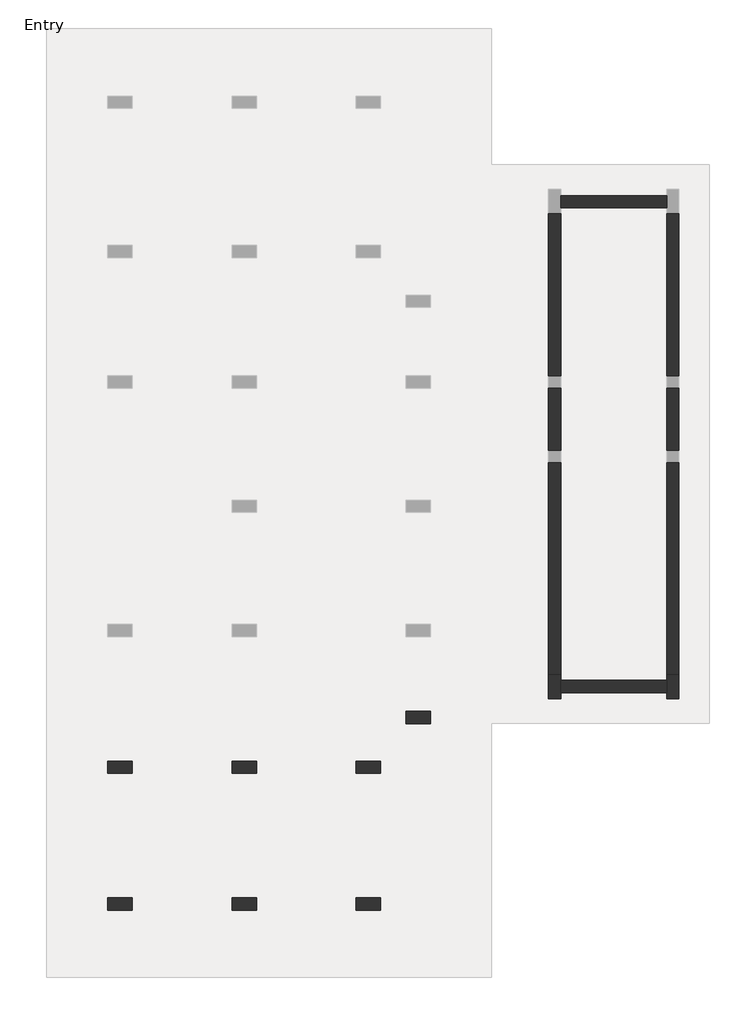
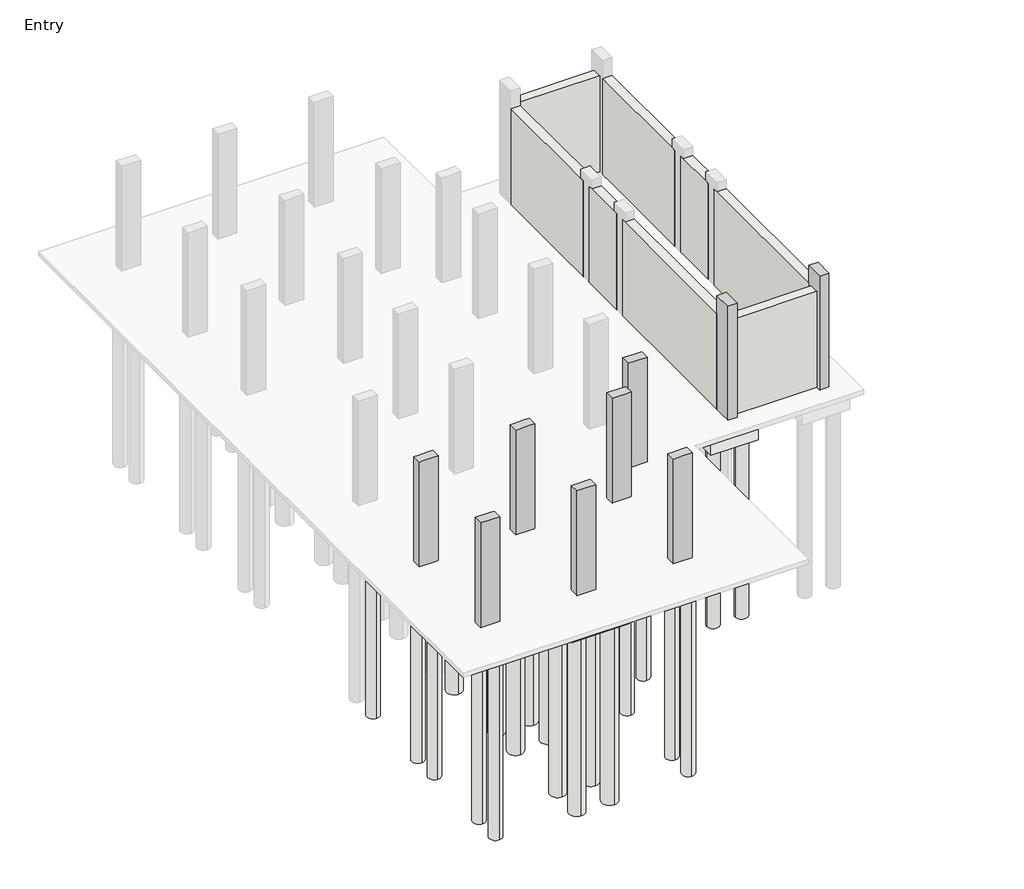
# One storey, part 1 of 3: 32 slabs, 9 columns, 8 walls, 1 footing.
"""IFC4 building model written with IfcOpenShell, lengths in millimetres."""

from ifc_helpers import new_model, si_unit, point, frame, frame_2d, origin, origin_with_axes, place, context, project, spatial, polyline, circle_curve, trimmed, segment, composite_curve, outline, extrude, faceted_brep, element, save

model = new_model("IFC4")

# Units and contexts
model_context = context("Model", 3, world=origin())
ifc_project = project(units=[si_unit("LENGTHUNIT", "METRE", prefix="MILLI")], contexts=[model_context])

# Site, building, storey
site = spatial("IfcSite", under=ifc_project)
building = spatial("IfcBuilding", under=site)
storey = spatial("IfcBuildingStorey", under=building, Name="Entry", Elevation=0.0)

# Columns
placement = place(None, origin())
element("IfcColumn", 1, ObjectType="M_Concrete-Rectangular-Column : 300 x 600mm", at=placement, inside=storey, context=model_context, shape_type="Brep", body=[
    faceted_brep([(-6997.5526929, -1780.40431, 0.0), (-6397.5526929, -1780.40431, 0.0), (-6397.5526929, -2080.40431, 0.0), (-6997.5526929, -2080.40431, 0.0), (-6997.5526929, -1780.40431, 3505.2), (-6847.5526929, -1780.40431, 3505.2), (-6547.5526929, -1780.40431, 3505.2), (-6397.5526929, -1780.40431, 3505.2), (-6997.5526929, -1780.40431, 2910.0), (-6397.5526929, -2080.40431, 3505.2), (-6697.5526929, -2080.40431, 3505.2), (-6997.5526929, -2080.40431, 3505.2), (-6997.5526929, -2080.40431, 2910.0)], [[[0, 1, 2, 3]], [[4, 5, 6, 7, 1, 0, 8]], [[7, 9, 2, 1]], [[9, 10, 11, 12, 3, 2]], [[11, 4, 8, 0, 3, 12]], [[4, 11, 10, 9, 7, 6, 5]]]),
])
element("IfcColumn", 2, ObjectType="M_Concrete-Rectangular-Column : 300 x 600mm", at=placement, inside=storey, context=model_context, shape_type="Brep", body=[
    faceted_brep([(-14312.7526929, -2999.60431, 0.0), (-13712.7526929, -2999.60431, 0.0), (-13712.7526929, -3299.60431, 0.0), (-14312.7526929, -3299.60431, 0.0), (-14312.7526929, -2999.60431, 3505.2), (-14162.7526929, -2999.60431, 3505.2), (-13862.7526929, -2999.60431, 3505.2), (-13712.7526929, -2999.60431, 3505.2), (-13712.7526929, -2999.60431, 2910.0), (-13712.7526929, -3299.60431, 3505.2), (-13712.7526929, -3299.60431, 2910.0), (-13862.7526929, -3299.60431, 3505.2), (-14162.7526929, -3299.60431, 3505.2), (-14312.7526929, -3299.60431, 3505.2)], [[[0, 1, 2, 3]], [[4, 5, 6, 7, 8, 1, 0]], [[7, 9, 10, 2, 1, 8]], [[9, 11, 12, 13, 3, 2, 10]], [[13, 4, 0, 3]], [[4, 13, 12, 11, 9, 7, 6, 5]]]),
])
element("IfcColumn", 3, ObjectType="M_Concrete-Rectangular-Column : 300 x 600mm", at=placement, inside=storey, context=model_context, shape_type="Brep", body=[
    faceted_brep([(-11264.7526929, -2999.60431, 0.0), (-10664.7526929, -2999.60431, 0.0), (-10664.7526929, -3299.60431, 0.0), (-11264.7526929, -3299.60431, 0.0), (-11264.7526929, -2999.60431, 3505.2), (-11114.7526929, -2999.60431, 3505.2), (-10814.7526929, -2999.60431, 3505.2), (-10664.7526929, -2999.60431, 3505.2), (-10664.7526929, -2999.60431, 2910.0), (-11264.7526929, -2999.60431, 2910.0), (-10664.7526929, -3299.60431, 3505.2), (-10664.7526929, -3299.60431, 2910.0), (-10814.7526929, -3299.60431, 3505.2), (-11114.7526929, -3299.60431, 3505.2), (-11264.7526929, -3299.60431, 3505.2), (-11264.7526929, -3299.60431, 2910.0)], [[[0, 1, 2, 3]], [[4, 5, 6, 7, 8, 1, 0, 9]], [[7, 10, 11, 2, 1, 8]], [[10, 12, 13, 14, 15, 3, 2, 11]], [[14, 4, 9, 0, 3, 15]], [[4, 14, 13, 12, 10, 7, 6, 5]]]),
])
element("IfcColumn", 4, ObjectType="M_Concrete-Rectangular-Column : 300 x 600mm", at=placement, inside=storey, context=model_context, shape_type="Brep", body=[
    faceted_brep([(-8216.7526929, -2999.60431, 0.0), (-7616.7526929, -2999.60431, 0.0), (-7616.7526929, -3299.60431, 0.0), (-8216.7526929, -3299.60431, 0.0), (-8216.7526929, -2999.60431, 3505.2), (-8066.7526929, -2999.60431, 3505.2), (-7766.7526929, -2999.60431, 3505.2), (-7616.7526929, -2999.60431, 3505.2), (-8216.7526929, -2999.60431, 2910.0), (-7616.7526929, -3299.60431, 3505.2), (-7766.7526929, -3299.60431, 3505.2), (-8066.7526929, -3299.60431, 3505.2), (-8216.7526929, -3299.60431, 3505.2), (-8216.7526929, -3299.60431, 2910.0)], [[[0, 1, 2, 3]], [[4, 5, 6, 7, 1, 0, 8]], [[7, 9, 2, 1]], [[9, 10, 11, 12, 13, 3, 2]], [[12, 4, 8, 0, 3, 13]], [[4, 12, 11, 10, 9, 7, 6, 5]]]),
])
element("IfcColumn", 5, ObjectType="M_Concrete-Rectangular-Column : 300 x 600mm", at=placement, inside=storey, context=model_context, shape_type="Brep", body=[
    faceted_brep([(-14312.7526929, -6352.40431, 0.0), (-13712.7526929, -6352.40431, 0.0), (-13712.7526929, -6652.40431, 0.0), (-14312.7526929, -6652.40431, 0.0), (-14312.7526929, -6352.40431, 3505.2), (-14162.7526929, -6352.40431, 3505.2), (-13862.7526929, -6352.40431, 3505.2), (-13712.7526929, -6352.40431, 3505.2), (-13712.7526929, -6352.40431, 2910.0), (-13712.7526929, -6652.40431, 3505.2), (-13712.7526929, -6652.40431, 2910.0), (-14012.7526929, -6652.40431, 3505.2), (-14312.7526929, -6652.40431, 3505.2)], [[[0, 1, 2, 3]], [[4, 5, 6, 7, 8, 1, 0]], [[7, 9, 10, 2, 1, 8]], [[9, 11, 12, 3, 2, 10]], [[12, 4, 0, 3]], [[4, 12, 11, 9, 7, 6, 5]]]),
])
element("IfcColumn", 6, ObjectType="M_Concrete-Rectangular-Column : 300 x 600mm", at=placement, inside=storey, context=model_context, shape_type="Brep", body=[
    faceted_brep([(-11264.7526929, -6352.40431, 0.0), (-10664.7526929, -6352.40431, 0.0), (-10664.7526929, -6652.40431, 0.0), (-11264.7526929, -6652.40431, 0.0), (-11264.7526929, -6352.40431, 3505.2), (-10664.7526929, -6352.40431, 3505.2), (-10664.7526929, -6352.40431, 2910.0), (-11264.7526929, -6352.40431, 2910.0), (-10664.7526929, -6652.40431, 3505.2), (-10664.7526929, -6652.40431, 2910.0), (-11264.7526929, -6652.40431, 3505.2), (-11264.7526929, -6652.40431, 2910.0)], [[[0, 1, 2, 3]], [[4, 5, 6, 1, 0, 7]], [[5, 8, 9, 2, 1, 6]], [[8, 10, 11, 3, 2, 9]], [[10, 4, 7, 0, 3, 11]], [[4, 10, 8, 5]]]),
])
element("IfcColumn", 7, ObjectType="M_Concrete-Rectangular-Column : 300 x 600mm", at=placement, inside=storey, context=model_context, shape_type="Brep", body=[
    faceted_brep([(-8216.7526929, -6352.40431, 0.0), (-7616.7526929, -6352.40431, 0.0), (-7616.7526929, -6652.40431, 0.0), (-8216.7526929, -6652.40431, 0.0), (-8216.7526929, -6352.40431, 3505.2), (-8066.7526929, -6352.40431, 3505.2), (-7766.7526929, -6352.40431, 3505.2), (-7616.7526929, -6352.40431, 3505.2), (-8216.7526929, -6352.40431, 2910.0), (-7616.7526929, -6652.40431, 3505.2), (-7916.7526929, -6652.40431, 3505.2), (-8216.7526929, -6652.40431, 3505.2), (-8216.7526929, -6652.40431, 2910.0)], [[[0, 1, 2, 3]], [[4, 5, 6, 7, 1, 0, 8]], [[7, 9, 2, 1]], [[9, 10, 11, 12, 3, 2]], [[11, 4, 8, 0, 3, 12]], [[4, 11, 10, 9, 7, 6, 5]]]),
])
element("IfcColumn", 8, ObjectType="M_Concrete-Rectangular-Column : 300 x 600mm", at=placement, inside=storey, context=model_context, shape_type="Brep", body=[
    faceted_brep([(-3494.7526929, -1468.40431, 0.0), (-3494.7526929, -868.40431, 0.0), (-3194.7526929, -868.40431, 0.0), (-3194.7526929, -1018.40431, 0.0), (-3194.7526929, -1318.40431, 0.0), (-3194.7526929, -1468.40431, 0.0), (-3494.7526929, -1468.40431, 3810.0), (-3494.7526929, -868.40431, 3810.0), (-3494.7526929, -868.40431, 3210.0), (-3194.7526929, -868.40431, 3810.0), (-3194.7526929, -868.40431, 3210.0), (-3194.7526929, -1468.40431, 3810.0)], [[[0, 1, 2, 3, 4, 5]], [[6, 7, 8, 1, 0]], [[7, 9, 10, 2, 1, 8]], [[9, 11, 5, 4, 3, 2, 10]], [[11, 6, 0, 5]], [[6, 11, 9, 7]]]),
])
element("IfcColumn", 9, ObjectType="M_Concrete-Rectangular-Column : 300 x 600mm", at=placement, inside=storey, context=model_context, shape_type="Brep", body=[
    faceted_brep([(-599.1526929, -1468.40431, 0.0), (-599.1526929, -1318.40431, 0.0), (-599.1526929, -1018.40431, 0.0), (-599.1526929, -868.40431, 0.0), (-299.1526929, -868.40431, 0.0), (-299.1526929, -1468.40431, 0.0), (-599.1526929, -1468.40431, 3810.0), (-599.1526929, -868.40431, 3810.0), (-599.1526929, -868.40431, 3210.0), (-299.1526929, -868.40431, 3810.0), (-299.1526929, -868.40431, 3210.0), (-299.1526929, -1468.40431, 3810.0)], [[[0, 1, 2, 3, 4, 5]], [[6, 7, 8, 3, 2, 1, 0]], [[7, 9, 10, 4, 3, 8]], [[9, 11, 5, 4, 10]], [[11, 6, 0, 5]], [[6, 11, 9, 7]]]),
])

# Footing
element("IfcFooting", 10, ObjectType="Bearing Footing - 900 x 300", at=placement, inside=storey, context=model_context, shape_type="Brep", body=[
    faceted_brep([(-599.1526929, -1618.40431, -300.0), (-599.1526929, -1568.40431, -300.0), (-599.1526929, -1568.40431, -150.0), (-599.1526929, -1618.40431, -150.0), (-599.1526929, -768.40431, -300.0), (-599.1526929, -718.40431, -300.0), (-599.1526929, -718.40431, -150.0), (-599.1526929, -768.40431, -150.0), (-3194.7526929, -1568.40431, -300.0), (-3194.7526929, -1618.40431, -300.0), (-3194.7526929, -1618.40431, -150.0), (-3194.7526929, -1568.40431, -150.0), (-2594.7526929, -1568.40431, -300.0), (-2594.7526929, -768.40431, -300.0), (-2894.7526929, -768.40431, -300.0), (-2894.7526929, -718.40431, -300.0), (-899.1526929, -718.40431, -300.0), (-1199.1526929, -768.40431, -300.0), (-1199.1526929, -1568.40431, -300.0), (-2894.7526929, -718.40431, -150.0), (-899.1526929, -718.40431, -150.0), (-2594.7526929, -1568.40431, -150.0), (-2594.7526929, -768.40431, -150.0), (-2894.7526929, -768.40431, -150.0), (-1199.1526929, -1568.40431, -150.0), (-1199.1526929, -768.40431, -150.0)], [[[0, 1, 2, 3]], [[4, 5, 6, 7]], [[8, 9, 10, 11]], [[9, 0, 3, 10]], [[0, 9, 8, 12, 13, 14, 15, 16, 5, 4, 17, 18, 1]], [[5, 16, 15, 19, 20, 6]], [[12, 8, 11, 21]], [[13, 12, 21, 22]], [[14, 13, 22, 23]], [[1, 18, 24, 2]], [[17, 4, 7, 25]], [[18, 17, 25, 24]], [[15, 14, 23, 19]], [[3, 2, 24, 25, 7, 6, 20, 19, 23, 22, 21, 11, 10]]]),
])

# Slabs
element("IfcSlab", 11, ObjectType="M_Pile Cap-2 Pile : 800 x 1500 x 900mm", at=placement, inside=storey, context=model_context, shape_type="SweptSolid", body=[
    extrude(outline(polyline([(-14412.7526929, -2399.60431), (-13612.7526929, -2399.60431), (-13612.7526929, -3899.60431), (-14412.7526929, -3899.60431), (-14412.7526929, -2399.60431)])), frame((0.0, 0.0, -900.0), z_axis=(0.0, 0.0, 1.0), x_axis=(1.0, 0.0, 0.0)), (0.0, 0.0, 1.0), 750.0),
])
element("IfcSlab", 12, ObjectType="M_Pile Cap-2 Pile : 800 x 1500 x 900mm", at=placement, inside=storey, context=model_context, shape_type="SweptSolid", body=[
    extrude(outline(polyline([(-14412.7526929, -5752.40431), (-13612.7526929, -5752.40431), (-13612.7526929, -7252.40431), (-14412.7526929, -7252.40431), (-14412.7526929, -5752.40431)])), frame((0.0, 0.0, -900.0), z_axis=(0.0, 0.0, 1.0), x_axis=(1.0, 0.0, 0.0)), (0.0, 0.0, 1.0), 750.0),
])
element("IfcSlab", 13, ObjectType="M_Pile Cap-2 Pile : 800 x 1500 x 900mm", at=placement, inside=storey, context=model_context, shape_type="SweptSolid", body=[
    extrude(outline(polyline([(-8316.7526929, -2399.60431), (-7516.7526929, -2399.60431), (-7516.7526929, -3899.60431), (-8316.7526929, -3899.60431), (-8316.7526929, -2399.60431)])), frame((0.0, 0.0, -900.0), z_axis=(0.0, 0.0, 1.0), x_axis=(1.0, 0.0, 0.0)), (0.0, 0.0, 1.0), 750.0),
])
element("IfcSlab", 14, ObjectType="M_Pile Cap-2 Pile : 800 x 1500 x 900mm", at=placement, inside=storey, context=model_context, shape_type="SweptSolid", body=[
    extrude(outline(polyline([(-8316.7526929, -5752.40431), (-7516.7526929, -5752.40431), (-7516.7526929, -7252.40431), (-8316.7526929, -7252.40431), (-8316.7526929, -5752.40431)])), frame((0.0, 0.0, -900.0), z_axis=(0.0, 0.0, 1.0), x_axis=(1.0, 0.0, 0.0)), (0.0, 0.0, 1.0), 750.0),
])
element("IfcSlab", 15, ObjectType="M_Pile Cap-2 Pile : 800 x 1500 x 900mm", at=placement, inside=storey, context=model_context, shape_type="Brep", body=[
    faceted_brep([(-4094.7526929, -1568.40431, -900.0), (-4094.7526929, -768.40431, -900.0), (-2594.7526929, -768.40431, -900.0), (-2594.7526929, -1568.40431, -900.0), (-2594.7526929, -1568.40431, -300.0), (-2594.7526929, -1568.40431, -150.0), (-3194.7526929, -1568.40431, -150.0), (-4094.7526929, -1568.40431, -150.0), (-2594.7526929, -768.40431, -300.0), (-2594.7526929, -768.40431, -150.0), (-4094.7526929, -768.40431, -150.0), (-3794.7526929, -768.40431, -150.0), (-2894.7526929, -768.40431, -150.0)], [[[0, 1, 2, 3]], [[0, 3, 4, 5, 6, 7]], [[3, 2, 8, 9, 5, 4]], [[2, 1, 10, 11, 12, 9, 8]], [[1, 0, 7, 10]], [[7, 6, 5, 9, 12, 11, 10]]]),
])
element("IfcSlab", 16, ObjectType="M_Pile Cap-2 Pile : 800 x 1500 x 900mm", at=placement, inside=storey, context=model_context, shape_type="SweptSolid", body=[
    extrude(outline(polyline([(-7097.5526929, -1180.40431), (-6297.5526929, -1180.40431), (-6297.5526929, -2680.40431), (-7097.5526929, -2680.40431), (-7097.5526929, -1180.40431)])), frame((0.0, 0.0, -900.0), z_axis=(0.0, 0.0, 1.0), x_axis=(1.0, 0.0, 0.0)), (0.0, 0.0, 1.0), 750.0),
])
element("IfcSlab", 17, ObjectType="M_Pile Cap-4 Pile : 1800 x 1800 x 900mm", at=placement, inside=storey, context=model_context, shape_type="SweptSolid", body=[
    extrude(outline(polyline([(-11864.7526929, -2249.60431), (-10064.7526929, -2249.60431), (-10064.7526929, -4049.60431), (-11864.7526929, -4049.60431), (-11864.7526929, -2249.60431)])), frame((0.0, 0.0, -900.0), z_axis=(0.0, 0.0, 1.0), x_axis=(1.0, 0.0, 0.0)), (0.0, 0.0, 1.0), 750.0),
])
element("IfcSlab", 18, ObjectType="M_Pile Cap-4 Pile : 1800 x 1800 x 900mm", at=placement, inside=storey, context=model_context, shape_type="SweptSolid", body=[
    extrude(outline(polyline([(-11864.7526929, -5602.40431), (-10064.7526929, -5602.40431), (-10064.7526929, -7402.40431), (-11864.7526929, -7402.40431), (-11864.7526929, -5602.40431)])), frame((0.0, 0.0, -900.0), z_axis=(0.0, 0.0, 1.0), x_axis=(1.0, 0.0, 0.0)), (0.0, 0.0, 1.0), 750.0),
])
element("IfcSlab", 19, ObjectType="M_Pile-Steel Pipe : 400mm Diameter", at=placement, inside=storey, context=model_context, shape_type="SweptSolid", body=[
    extrude(outline(composite_curve([segment(trimmed(circle_curve(frame_2d((-6697.5526929, -246.80431)), 200.0), [point((-6697.5526929, -446.80431))], [point((-6697.5526929, -46.80431))], False, "CARTESIAN"), True, "CONTINUOUS"), segment(trimmed(circle_curve(frame_2d((-6697.5526929, -246.80431)), 200.0), [point((-6697.5526929, -46.80431))], [point((-6697.5526929, -446.80431))], False, "CARTESIAN"), True, "CONTINUOUS")], self_intersect=False)), frame((0.0, 0.0, -6900.0), z_axis=(0.0, 0.0, 1.0), x_axis=(1.0, 0.0, 0.0)), (0.0, 0.0, 1.0), 6000.0),
])
element("IfcSlab", 20, ObjectType="M_Pile-Steel Pipe : 400mm Diameter", at=placement, inside=storey, context=model_context, shape_type="SweptSolid", body=[
    extrude(outline(composite_curve([segment(trimmed(circle_curve(frame_2d((-14012.7526929, -246.80431)), 200.0), [point((-14012.7526929, -446.80431))], [point((-14012.7526929, -46.80431))], False, "CARTESIAN"), True, "CONTINUOUS"), segment(trimmed(circle_curve(frame_2d((-14012.7526929, -246.80431)), 200.0), [point((-14012.7526929, -46.80431))], [point((-14012.7526929, -446.80431))], False, "CARTESIAN"), True, "CONTINUOUS")], self_intersect=False)), frame((0.0, 0.0, -6900.0), z_axis=(0.0, 0.0, 1.0), x_axis=(1.0, 0.0, 0.0)), (0.0, 0.0, 1.0), 6000.0),
])
element("IfcSlab", 21, ObjectType="M_Pile-Steel Pipe : 400mm Diameter", at=placement, inside=storey, context=model_context, shape_type="SweptSolid", body=[
    extrude(outline(composite_curve([segment(trimmed(circle_curve(frame_2d((-14012.7526929, -3599.60431)), 200.0), [point((-14012.7526929, -3799.60431))], [point((-14012.7526929, -3399.60431))], False, "CARTESIAN"), True, "CONTINUOUS"), segment(trimmed(circle_curve(frame_2d((-14012.7526929, -3599.60431)), 200.0), [point((-14012.7526929, -3399.60431))], [point((-14012.7526929, -3799.60431))], False, "CARTESIAN"), True, "CONTINUOUS")], self_intersect=False)), frame((0.0, 0.0, -6900.0), z_axis=(0.0, 0.0, 1.0), x_axis=(1.0, 0.0, 0.0)), (0.0, 0.0, 1.0), 6000.0),
])
element("IfcSlab", 22, ObjectType="M_Pile-Steel Pipe : 400mm Diameter", at=placement, inside=storey, context=model_context, shape_type="SweptSolid", body=[
    extrude(outline(composite_curve([segment(trimmed(circle_curve(frame_2d((-14012.7526929, -2699.60431)), 200.0), [point((-14012.7526929, -2899.60431))], [point((-14012.7526929, -2499.60431))], False, "CARTESIAN"), True, "CONTINUOUS"), segment(trimmed(circle_curve(frame_2d((-14012.7526929, -2699.60431)), 200.0), [point((-14012.7526929, -2499.60431))], [point((-14012.7526929, -2899.60431))], False, "CARTESIAN"), True, "CONTINUOUS")], self_intersect=False)), frame((0.0, 0.0, -6900.0), z_axis=(0.0, 0.0, 1.0), x_axis=(1.0, 0.0, 0.0)), (0.0, 0.0, 1.0), 6000.0),
])
element("IfcSlab", 23, ObjectType="M_Pile-Steel Pipe : 400mm Diameter", at=placement, inside=storey, context=model_context, shape_type="SweptSolid", body=[
    extrude(outline(composite_curve([segment(trimmed(circle_curve(frame_2d((-14012.7526929, -6952.40431)), 200.0), [point((-14012.7526929, -7152.40431))], [point((-14012.7526929, -6752.40431))], False, "CARTESIAN"), True, "CONTINUOUS"), segment(trimmed(circle_curve(frame_2d((-14012.7526929, -6952.40431)), 200.0), [point((-14012.7526929, -6752.40431))], [point((-14012.7526929, -7152.40431))], False, "CARTESIAN"), True, "CONTINUOUS")], self_intersect=False)), frame((0.0, 0.0, -6900.0), z_axis=(0.0, 0.0, 1.0), x_axis=(1.0, 0.0, 0.0)), (0.0, 0.0, 1.0), 6000.0),
])
element("IfcSlab", 24, ObjectType="M_Pile-Steel Pipe : 400mm Diameter", at=placement, inside=storey, context=model_context, shape_type="SweptSolid", body=[
    extrude(outline(composite_curve([segment(trimmed(circle_curve(frame_2d((-14012.7526929, -6052.40431)), 200.0), [point((-14012.7526929, -6252.40431))], [point((-14012.7526929, -5852.40431))], False, "CARTESIAN"), True, "CONTINUOUS"), segment(trimmed(circle_curve(frame_2d((-14012.7526929, -6052.40431)), 200.0), [point((-14012.7526929, -5852.40431))], [point((-14012.7526929, -6252.40431))], False, "CARTESIAN"), True, "CONTINUOUS")], self_intersect=False)), frame((0.0, 0.0, -6900.0), z_axis=(0.0, 0.0, 1.0), x_axis=(1.0, 0.0, 0.0)), (0.0, 0.0, 1.0), 6000.0),
])
element("IfcSlab", 25, ObjectType="M_Pile-Steel Pipe : 400mm Diameter", at=placement, inside=storey, context=model_context, shape_type="SweptSolid", body=[
    extrude(outline(composite_curve([segment(trimmed(circle_curve(frame_2d((-7916.7526929, -3599.60431)), 200.0), [point((-7916.7526929, -3799.60431))], [point((-7916.7526929, -3399.60431))], False, "CARTESIAN"), True, "CONTINUOUS"), segment(trimmed(circle_curve(frame_2d((-7916.7526929, -3599.60431)), 200.0), [point((-7916.7526929, -3399.60431))], [point((-7916.7526929, -3799.60431))], False, "CARTESIAN"), True, "CONTINUOUS")], self_intersect=False)), frame((0.0, 0.0, -6900.0), z_axis=(0.0, 0.0, 1.0), x_axis=(1.0, 0.0, 0.0)), (0.0, 0.0, 1.0), 6000.0),
])
element("IfcSlab", 26, ObjectType="M_Pile-Steel Pipe : 400mm Diameter", at=placement, inside=storey, context=model_context, shape_type="SweptSolid", body=[
    extrude(outline(composite_curve([segment(trimmed(circle_curve(frame_2d((-7916.7526929, -2699.60431)), 200.0), [point((-7916.7526929, -2899.60431))], [point((-7916.7526929, -2499.60431))], False, "CARTESIAN"), True, "CONTINUOUS"), segment(trimmed(circle_curve(frame_2d((-7916.7526929, -2699.60431)), 200.0), [point((-7916.7526929, -2499.60431))], [point((-7916.7526929, -2899.60431))], False, "CARTESIAN"), True, "CONTINUOUS")], self_intersect=False)), frame((0.0, 0.0, -6900.0), z_axis=(0.0, 0.0, 1.0), x_axis=(1.0, 0.0, 0.0)), (0.0, 0.0, 1.0), 6000.0),
])
element("IfcSlab", 27, ObjectType="M_Pile-Steel Pipe : 400mm Diameter", at=placement, inside=storey, context=model_context, shape_type="SweptSolid", body=[
    extrude(outline(composite_curve([segment(trimmed(circle_curve(frame_2d((-7916.7526929, -6952.40431)), 200.0), [point((-7916.7526929, -7152.40431))], [point((-7916.7526929, -6752.40431))], False, "CARTESIAN"), True, "CONTINUOUS"), segment(trimmed(circle_curve(frame_2d((-7916.7526929, -6952.40431)), 200.0), [point((-7916.7526929, -6752.40431))], [point((-7916.7526929, -7152.40431))], False, "CARTESIAN"), True, "CONTINUOUS")], self_intersect=False)), frame((0.0, 0.0, -6900.0), z_axis=(0.0, 0.0, 1.0), x_axis=(1.0, 0.0, 0.0)), (0.0, 0.0, 1.0), 6000.0),
])
element("IfcSlab", 28, ObjectType="M_Pile-Steel Pipe : 400mm Diameter", at=placement, inside=storey, context=model_context, shape_type="SweptSolid", body=[
    extrude(outline(composite_curve([segment(trimmed(circle_curve(frame_2d((-7916.7526929, -6052.40431)), 200.0), [point((-7916.7526929, -6252.40431))], [point((-7916.7526929, -5852.40431))], False, "CARTESIAN"), True, "CONTINUOUS"), segment(trimmed(circle_curve(frame_2d((-7916.7526929, -6052.40431)), 200.0), [point((-7916.7526929, -5852.40431))], [point((-7916.7526929, -6252.40431))], False, "CARTESIAN"), True, "CONTINUOUS")], self_intersect=False)), frame((0.0, 0.0, -6900.0), z_axis=(0.0, 0.0, 1.0), x_axis=(1.0, 0.0, 0.0)), (0.0, 0.0, 1.0), 6000.0),
])
element("IfcSlab", 29, ObjectType="M_Pile-Steel Pipe : 400mm Diameter", at=placement, inside=storey, context=model_context, shape_type="SweptSolid", body=[
    extrude(outline(composite_curve([segment(trimmed(circle_curve(frame_2d((-2894.7526929, -1168.40431)), 200.0), [point((-2694.7526929, -1168.40431))], [point((-3094.7526929, -1168.40431))], False, "CARTESIAN"), True, "CONTINUOUS"), segment(trimmed(circle_curve(frame_2d((-2894.7526929, -1168.40431)), 200.0), [point((-3094.7526929, -1168.40431))], [point((-2694.7526929, -1168.40431))], False, "CARTESIAN"), True, "CONTINUOUS")], self_intersect=False)), frame((0.0, 0.0, -6900.0), z_axis=(0.0, 0.0, 1.0), x_axis=(1.0, 0.0, 0.0)), (0.0, 0.0, 1.0), 6000.0),
])
element("IfcSlab", 30, ObjectType="M_Pile-Steel Pipe : 400mm Diameter", at=placement, inside=storey, context=model_context, shape_type="SweptSolid", body=[
    extrude(outline(composite_curve([segment(trimmed(circle_curve(frame_2d((-3794.7526929, -1168.40431)), 200.0), [point((-3594.7526929, -1168.40431))], [point((-3994.7526929, -1168.40431))], False, "CARTESIAN"), True, "CONTINUOUS"), segment(trimmed(circle_curve(frame_2d((-3794.7526929, -1168.40431)), 200.0), [point((-3994.7526929, -1168.40431))], [point((-3594.7526929, -1168.40431))], False, "CARTESIAN"), True, "CONTINUOUS")], self_intersect=False)), frame((0.0, 0.0, -6900.0), z_axis=(0.0, 0.0, 1.0), x_axis=(1.0, 0.0, 0.0)), (0.0, 0.0, 1.0), 6000.0),
])
element("IfcSlab", 31, ObjectType="M_Pile-Steel Pipe : 400mm Diameter", at=placement, inside=storey, context=model_context, shape_type="SweptSolid", body=[
    extrude(outline(composite_curve([segment(trimmed(circle_curve(frame_2d((-6697.5526929, -2380.40431)), 200.0), [point((-6697.5526929, -2580.40431))], [point((-6697.5526929, -2180.40431))], False, "CARTESIAN"), True, "CONTINUOUS"), segment(trimmed(circle_curve(frame_2d((-6697.5526929, -2380.40431)), 200.0), [point((-6697.5526929, -2180.40431))], [point((-6697.5526929, -2580.40431))], False, "CARTESIAN"), True, "CONTINUOUS")], self_intersect=False)), frame((0.0, 0.0, -6900.0), z_axis=(0.0, 0.0, 1.0), x_axis=(1.0, 0.0, 0.0)), (0.0, 0.0, 1.0), 6000.0),
])
element("IfcSlab", 32, ObjectType="M_Pile-Steel Pipe : 400mm Diameter", at=placement, inside=storey, context=model_context, shape_type="SweptSolid", body=[
    extrude(outline(composite_curve([segment(trimmed(circle_curve(frame_2d((-6697.5526929, -1480.40431)), 200.0), [point((-6697.5526929, -1680.40431))], [point((-6697.5526929, -1280.40431))], False, "CARTESIAN"), True, "CONTINUOUS"), segment(trimmed(circle_curve(frame_2d((-6697.5526929, -1480.40431)), 200.0), [point((-6697.5526929, -1280.40431))], [point((-6697.5526929, -1680.40431))], False, "CARTESIAN"), True, "CONTINUOUS")], self_intersect=False)), frame((0.0, 0.0, -6900.0), z_axis=(0.0, 0.0, 1.0), x_axis=(1.0, 0.0, 0.0)), (0.0, 0.0, 1.0), 6000.0),
])
element("IfcSlab", 33, ObjectType="M_Pile-Steel Pipe : 500mm Diameter", at=placement, inside=storey, context=model_context, shape_type="SweptSolid", body=[
    extrude(outline(composite_curve([segment(trimmed(circle_curve(frame_2d((-10444.7526929, -316.80431)), 250.0), [point((-10444.7526929, -566.80431))], [point((-10444.7526929, -66.80431))], False, "CARTESIAN"), True, "CONTINUOUS"), segment(trimmed(circle_curve(frame_2d((-10444.7526929, -316.80431)), 250.0), [point((-10444.7526929, -66.80431))], [point((-10444.7526929, -566.80431))], False, "CARTESIAN"), True, "CONTINUOUS")], self_intersect=False)), frame((0.0, 0.0, -6900.0), z_axis=(0.0, 0.0, 1.0), x_axis=(1.0, 0.0, 0.0)), (0.0, 0.0, 1.0), 6000.0),
])
element("IfcSlab", 34, ObjectType="M_Pile-Steel Pipe : 500mm Diameter", at=placement, inside=storey, context=model_context, shape_type="SweptSolid", body=[
    extrude(outline(composite_curve([segment(trimmed(circle_curve(frame_2d((-11484.7526929, -316.80431)), 250.0), [point((-11484.7526929, -566.80431))], [point((-11484.7526929, -66.80431))], False, "CARTESIAN"), True, "CONTINUOUS"), segment(trimmed(circle_curve(frame_2d((-11484.7526929, -316.80431)), 250.0), [point((-11484.7526929, -66.80431))], [point((-11484.7526929, -566.80431))], False, "CARTESIAN"), True, "CONTINUOUS")], self_intersect=False)), frame((0.0, 0.0, -6900.0), z_axis=(0.0, 0.0, 1.0), x_axis=(1.0, 0.0, 0.0)), (0.0, 0.0, 1.0), 6000.0),
])
element("IfcSlab", 35, ObjectType="M_Pile-Steel Pipe : 500mm Diameter", at=placement, inside=storey, context=model_context, shape_type="SweptSolid", body=[
    extrude(outline(composite_curve([segment(trimmed(circle_curve(frame_2d((-10444.7526929, -3669.60431)), 250.0), [point((-10444.7526929, -3919.60431))], [point((-10444.7526929, -3419.60431))], False, "CARTESIAN"), True, "CONTINUOUS"), segment(trimmed(circle_curve(frame_2d((-10444.7526929, -3669.60431)), 250.0), [point((-10444.7526929, -3419.60431))], [point((-10444.7526929, -3919.60431))], False, "CARTESIAN"), True, "CONTINUOUS")], self_intersect=False)), frame((0.0, 0.0, -6900.0), z_axis=(0.0, 0.0, 1.0), x_axis=(1.0, 0.0, 0.0)), (0.0, 0.0, 1.0), 6000.0),
])
element("IfcSlab", 36, ObjectType="M_Pile-Steel Pipe : 500mm Diameter", at=placement, inside=storey, context=model_context, shape_type="SweptSolid", body=[
    extrude(outline(composite_curve([segment(trimmed(circle_curve(frame_2d((-10444.7526929, -2629.60431)), 250.0), [point((-10444.7526929, -2879.60431))], [point((-10444.7526929, -2379.60431))], False, "CARTESIAN"), True, "CONTINUOUS"), segment(trimmed(circle_curve(frame_2d((-10444.7526929, -2629.60431)), 250.0), [point((-10444.7526929, -2379.60431))], [point((-10444.7526929, -2879.60431))], False, "CARTESIAN"), True, "CONTINUOUS")], self_intersect=False)), frame((0.0, 0.0, -6900.0), z_axis=(0.0, 0.0, 1.0), x_axis=(1.0, 0.0, 0.0)), (0.0, 0.0, 1.0), 6000.0),
])
element("IfcSlab", 37, ObjectType="M_Pile-Steel Pipe : 500mm Diameter", at=placement, inside=storey, context=model_context, shape_type="SweptSolid", body=[
    extrude(outline(composite_curve([segment(trimmed(circle_curve(frame_2d((-11484.7526929, -2629.60431)), 250.0), [point((-11484.7526929, -2879.60431))], [point((-11484.7526929, -2379.60431))], False, "CARTESIAN"), True, "CONTINUOUS"), segment(trimmed(circle_curve(frame_2d((-11484.7526929, -2629.60431)), 250.0), [point((-11484.7526929, -2379.60431))], [point((-11484.7526929, -2879.60431))], False, "CARTESIAN"), True, "CONTINUOUS")], self_intersect=False)), frame((0.0, 0.0, -6900.0), z_axis=(0.0, 0.0, 1.0), x_axis=(1.0, 0.0, 0.0)), (0.0, 0.0, 1.0), 6000.0),
])
element("IfcSlab", 38, ObjectType="M_Pile-Steel Pipe : 500mm Diameter", at=placement, inside=storey, context=model_context, shape_type="SweptSolid", body=[
    extrude(outline(composite_curve([segment(trimmed(circle_curve(frame_2d((-11484.7526929, -3669.60431)), 250.0), [point((-11484.7526929, -3919.60431))], [point((-11484.7526929, -3419.60431))], False, "CARTESIAN"), True, "CONTINUOUS"), segment(trimmed(circle_curve(frame_2d((-11484.7526929, -3669.60431)), 250.0), [point((-11484.7526929, -3419.60431))], [point((-11484.7526929, -3919.60431))], False, "CARTESIAN"), True, "CONTINUOUS")], self_intersect=False)), frame((0.0, 0.0, -6900.0), z_axis=(0.0, 0.0, 1.0), x_axis=(1.0, 0.0, 0.0)), (0.0, 0.0, 1.0), 6000.0),
])
element("IfcSlab", 39, ObjectType="M_Pile-Steel Pipe : 500mm Diameter", at=placement, inside=storey, context=model_context, shape_type="SweptSolid", body=[
    extrude(outline(composite_curve([segment(trimmed(circle_curve(frame_2d((-10444.7526929, -7022.40431)), 250.0), [point((-10444.7526929, -7272.40431))], [point((-10444.7526929, -6772.40431))], False, "CARTESIAN"), True, "CONTINUOUS"), segment(trimmed(circle_curve(frame_2d((-10444.7526929, -7022.40431)), 250.0), [point((-10444.7526929, -6772.40431))], [point((-10444.7526929, -7272.40431))], False, "CARTESIAN"), True, "CONTINUOUS")], self_intersect=False)), frame((0.0, 0.0, -6900.0), z_axis=(0.0, 0.0, 1.0), x_axis=(1.0, 0.0, 0.0)), (0.0, 0.0, 1.0), 6000.0),
])
element("IfcSlab", 40, ObjectType="M_Pile-Steel Pipe : 500mm Diameter", at=placement, inside=storey, context=model_context, shape_type="SweptSolid", body=[
    extrude(outline(composite_curve([segment(trimmed(circle_curve(frame_2d((-10444.7526929, -5982.40431)), 250.0), [point((-10444.7526929, -6232.40431))], [point((-10444.7526929, -5732.40431))], False, "CARTESIAN"), True, "CONTINUOUS"), segment(trimmed(circle_curve(frame_2d((-10444.7526929, -5982.40431)), 250.0), [point((-10444.7526929, -5732.40431))], [point((-10444.7526929, -6232.40431))], False, "CARTESIAN"), True, "CONTINUOUS")], self_intersect=False)), frame((0.0, 0.0, -6900.0), z_axis=(0.0, 0.0, 1.0), x_axis=(1.0, 0.0, 0.0)), (0.0, 0.0, 1.0), 6000.0),
])
element("IfcSlab", 41, ObjectType="M_Pile-Steel Pipe : 500mm Diameter", at=placement, inside=storey, context=model_context, shape_type="SweptSolid", body=[
    extrude(outline(composite_curve([segment(trimmed(circle_curve(frame_2d((-11484.7526929, -5982.40431)), 250.0), [point((-11484.7526929, -6232.40431))], [point((-11484.7526929, -5732.40431))], False, "CARTESIAN"), True, "CONTINUOUS"), segment(trimmed(circle_curve(frame_2d((-11484.7526929, -5982.40431)), 250.0), [point((-11484.7526929, -5732.40431))], [point((-11484.7526929, -6232.40431))], False, "CARTESIAN"), True, "CONTINUOUS")], self_intersect=False)), frame((0.0, 0.0, -6900.0), z_axis=(0.0, 0.0, 1.0), x_axis=(1.0, 0.0, 0.0)), (0.0, 0.0, 1.0), 6000.0),
])
element("IfcSlab", 42, ObjectType="M_Pile-Steel Pipe : 500mm Diameter", at=placement, inside=storey, context=model_context, shape_type="SweptSolid", body=[
    extrude(outline(composite_curve([segment(trimmed(circle_curve(frame_2d((-11484.7526929, -7022.40431)), 250.0), [point((-11484.7526929, -7272.40431))], [point((-11484.7526929, -6772.40431))], False, "CARTESIAN"), True, "CONTINUOUS"), segment(trimmed(circle_curve(frame_2d((-11484.7526929, -7022.40431)), 250.0), [point((-11484.7526929, -6772.40431))], [point((-11484.7526929, -7272.40431))], False, "CARTESIAN"), True, "CONTINUOUS")], self_intersect=False)), frame((0.0, 0.0, -6900.0), z_axis=(0.0, 0.0, 1.0), x_axis=(1.0, 0.0, 0.0)), (0.0, 0.0, 1.0), 6000.0),
])

# Walls
element("IfcWall", 43, ObjectType="Core-Shaft - 300mm Concrete", at=placement, inside=storey, context=model_context, shape_type="SweptSolid", body=[
    extrude(outline(polyline([(-599.1526929, 10568.79569), (-3194.7526929, 10568.79569), (-3194.7526929, 10868.79569), (-599.1526929, 10868.79569), (-599.1526929, 10568.79569)])), origin_with_axes(), (0.0, 0.0, 1.0), 3210.0),
])
element("IfcWall", 44, ObjectType="Core-Shaft - 300mm Concrete", at=placement, inside=storey, context=model_context, shape_type="Brep", body=[
    faceted_brep([(-599.1526929, 10418.79569, 0.0), (-599.1526929, 6449.19569, 0.0), (-599.1526929, 6449.19569, 3210.0), (-599.1526929, 6599.19569, 3210.0), (-599.1526929, 10418.79569, 3210.0), (-299.1526929, 10418.79569, 0.0), (-299.1526929, 10418.79569, 3210.0), (-299.1526929, 6599.19569, 3210.0), (-299.1526929, 6449.19569, 3210.0), (-299.1526929, 6449.19569, 0.0)], [[[0, 1, 2, 3, 4]], [[5, 6, 7, 8, 9]], [[1, 0, 5, 9]], [[2, 1, 9, 8]], [[4, 3, 2, 8, 7, 6]], [[0, 4, 6, 5]]]),
])
element("IfcWall", 45, ObjectType="Core-Shaft - 300mm Concrete", at=placement, inside=storey, context=model_context, shape_type="Brep", body=[
    faceted_brep([(-599.1526929, 6149.19569, 0.0), (-599.1526929, 4620.39569, 0.0), (-599.1526929, 4620.39569, 3210.0), (-599.1526929, 4770.39569, 3210.0), (-599.1526929, 5999.19569, 3210.0), (-599.1526929, 6149.19569, 3210.0), (-299.1526929, 6149.19569, 0.0), (-299.1526929, 6149.19569, 3210.0), (-299.1526929, 5999.19569, 3210.0), (-299.1526929, 4770.39569, 3210.0), (-299.1526929, 4620.39569, 3210.0), (-299.1526929, 4620.39569, 0.0)], [[[0, 1, 2, 3, 4, 5]], [[6, 7, 8, 9, 10, 11]], [[1, 0, 6, 11]], [[2, 1, 11, 10]], [[5, 4, 3, 2, 10, 9, 8, 7]], [[0, 5, 7, 6]]]),
])
element("IfcWall", 46, ObjectType="Core-Shaft - 300mm Concrete", at=placement, inside=storey, context=model_context, shape_type="Brep", body=[
    faceted_brep([(-599.1526929, 4320.39569, 0.0), (-599.1526929, -868.40431, 0.0), (-599.1526929, -868.40431, 3210.0), (-599.1526929, 4170.39569, 3210.0), (-599.1526929, 4320.39569, 3210.0), (-299.1526929, 4320.39569, 0.0), (-299.1526929, 4320.39569, 3210.0), (-299.1526929, 4170.39569, 3210.0), (-299.1526929, -868.40431, 3210.0), (-299.1526929, -868.40431, 0.0)], [[[0, 1, 2, 3, 4]], [[5, 6, 7, 8, 9]], [[1, 0, 5, 9]], [[2, 1, 9, 8]], [[4, 3, 2, 8, 7, 6]], [[0, 4, 6, 5]]]),
])
element("IfcWall", 47, ObjectType="Core-Shaft - 300mm Concrete", at=placement, inside=storey, context=model_context, shape_type="SweptSolid", body=[
    extrude(outline(polyline([(-3194.7526929, -1018.40431), (-599.1526929, -1018.40431), (-599.1526929, -1318.40431), (-3194.7526929, -1318.40431), (-3194.7526929, -1018.40431)])), origin_with_axes(), (0.0, 0.0, 1.0), 3210.0),
])
element("IfcWall", 48, ObjectType="Core-Shaft - 300mm Concrete", at=placement, inside=storey, context=model_context, shape_type="Brep", body=[
    faceted_brep([(-3194.7526929, -868.40431, 0.0), (-3194.7526929, 4320.39569, 0.0), (-3194.7526929, 4320.39569, 3210.0), (-3194.7526929, 4170.39569, 3210.0), (-3194.7526929, -868.40431, 3210.0), (-3494.7526929, -868.40431, 0.0), (-3494.7526929, -868.40431, 3210.0), (-3494.7526929, 4170.39569, 3210.0), (-3494.7526929, 4320.39569, 3210.0), (-3494.7526929, 4320.39569, 0.0)], [[[0, 1, 2, 3, 4]], [[5, 6, 7, 8, 9]], [[1, 0, 5, 9]], [[2, 1, 9, 8]], [[4, 3, 2, 8, 7, 6]], [[0, 4, 6, 5]]]),
])
element("IfcWall", 49, ObjectType="Core-Shaft - 300mm Concrete", at=placement, inside=storey, context=model_context, shape_type="Brep", body=[
    faceted_brep([(-3194.7526929, 4620.39569, 0.0), (-3194.7526929, 6149.19569, 0.0), (-3194.7526929, 6149.19569, 3210.0), (-3194.7526929, 5999.19569, 3210.0), (-3194.7526929, 4770.39569, 3210.0), (-3194.7526929, 4620.39569, 3210.0), (-3494.7526929, 4620.39569, 0.0), (-3494.7526929, 4620.39569, 3210.0), (-3494.7526929, 4770.39569, 3210.0), (-3494.7526929, 5999.19569, 3210.0), (-3494.7526929, 6149.19569, 3210.0), (-3494.7526929, 6149.19569, 0.0)], [[[0, 1, 2, 3, 4, 5]], [[6, 7, 8, 9, 10, 11]], [[1, 0, 6, 11]], [[2, 1, 11, 10]], [[5, 4, 3, 2, 10, 9, 8, 7]], [[0, 5, 7, 6]]]),
])
element("IfcWall", 50, ObjectType="Core-Shaft - 300mm Concrete", at=placement, inside=storey, context=model_context, shape_type="Brep", body=[
    faceted_brep([(-3194.7526929, 6449.19569, 0.0), (-3194.7526929, 10418.79569, 0.0), (-3194.7526929, 10418.79569, 3210.0), (-3194.7526929, 6599.19569, 3210.0), (-3194.7526929, 6449.19569, 3210.0), (-3494.7526929, 6449.19569, 0.0), (-3494.7526929, 6449.19569, 3210.0), (-3494.7526929, 6599.19569, 3210.0), (-3494.7526929, 10418.79569, 3210.0), (-3494.7526929, 10418.79569, 0.0)], [[[0, 1, 2, 3, 4]], [[5, 6, 7, 8, 9]], [[1, 0, 5, 9]], [[2, 1, 9, 8]], [[4, 3, 2, 8, 7, 6]], [[0, 4, 6, 5]]]),
])

save(model, "model.ifc")
